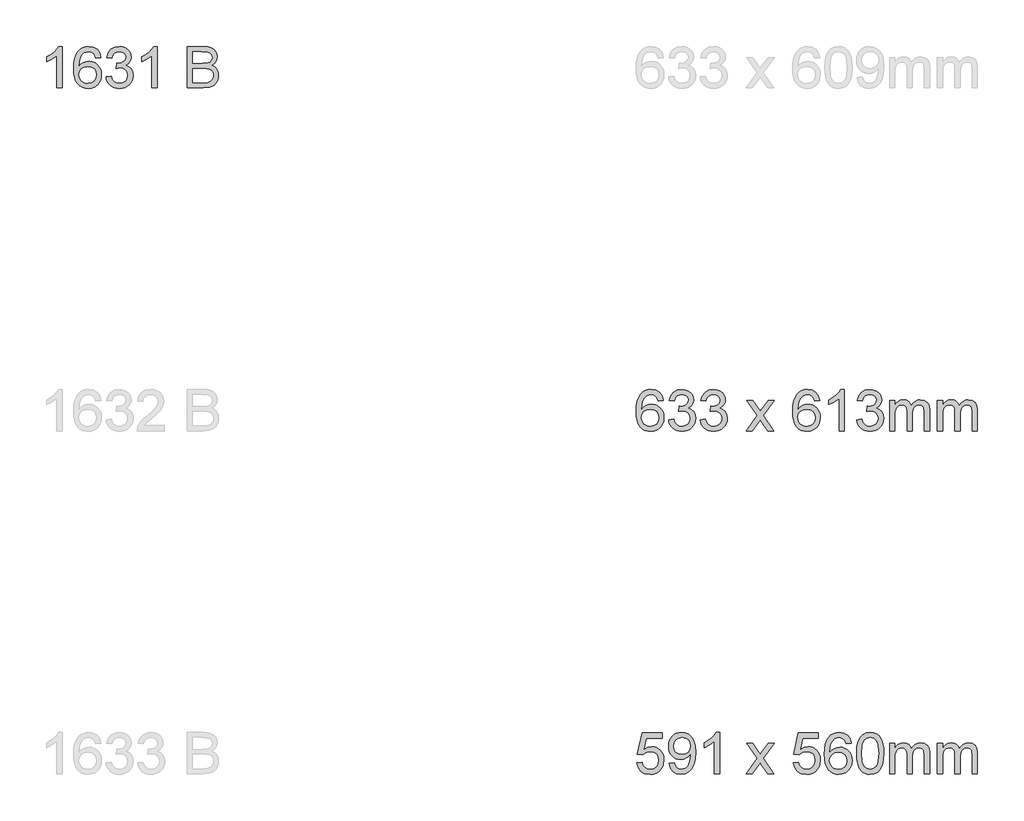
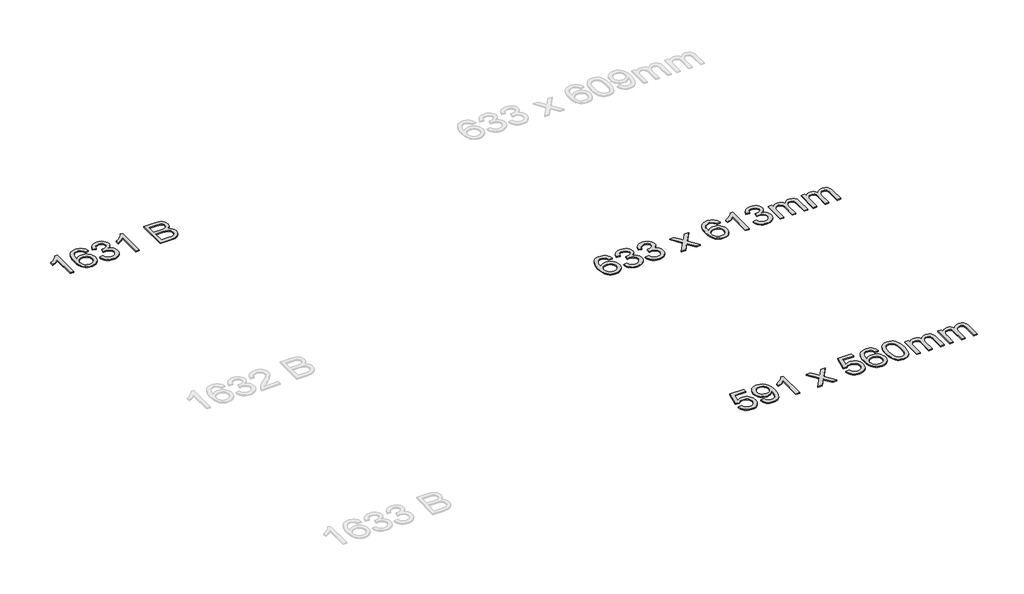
# One storey, part 28 of 39: 3 proxies.
"""IFC4 building model written with IfcOpenShell, lengths in millimetres."""

from ifc_helpers import new_model, si_unit, origin, origin_with_axes, place, context, project, spatial, polyline, outline, extrude, element, save

model = new_model("IFC4")

# Units and contexts
model_context = context("Model", 3, world=origin())
ifc_project = project(units=[si_unit("LENGTHUNIT", "METRE", prefix="MILLI")], contexts=[model_context])

# Site, building, storey
site = spatial("IfcSite", under=ifc_project)
building = spatial("IfcBuilding", under=site)
storey = spatial("IfcBuildingStorey", under=building, Name="Marelli - Linha PROFIT - Planta Baixa", Elevation=0.0)

# Proxies
placement = place(None, origin())
element("IfcBuildingElementProxy", 1, Name="300mm Arial", ObjectType="300mm Arial", at=placement, inside=storey, context=model_context, shape_type="SweptSolid", body=[
    extrude(outline(polyline([(-29517.1779543, -5780.5663201), (-29554.8490706, -5780.5663201), (-29554.8490706, -5545.7104543), (-29590.5336241, -5571.1311002), (-29630.1913032, -5590.1505994), (-29630.1913032, -5554.5396222), (-29600.6043938, -5538.4447849), (-29574.9722158, -5519.2965271), (-29554.7662972, -5498.9342587), (-29541.458166, -5479.1973896), (-29517.1779543, -5479.1973896), (-29517.1779543, -5780.5663201)])), origin_with_axes(), (0.0, 0.0, 1.0), 10.0),
    extrude(outline(polyline([(-29234.644582, -5559.2485118), (-29272.3156983, -5563.9574013), (-29278.3857512, -5545.2873901), (-29286.5895197, -5532.5402789), (-29303.6776384, -5520.7864492), (-29324.3342124, -5516.8685059), (-29341.8453954, -5519.1493743), (-29358.3265088, -5525.9919794), (-29372.4807686, -5540.4037566), (-29384.0414603, -5560.2417932), (-29391.8497556, -5588.3019923), (-29394.7468263, -5627.3802573), (-29379.6360734, -5609.7495127), (-29361.5270821, -5597.3242983), (-29341.4315282, -5589.9574613), (-29320.3610869, -5587.501849), (-29302.2612927, -5589.1803106), (-29285.5594501, -5594.2156954), (-29270.2555591, -5602.6080034), (-29256.3496197, -5614.3572346), (-29244.7935266, -5628.7644133), (-29236.5391743, -5645.1305635), (-29231.5865629, -5663.4556854), (-29229.9356925, -5683.7397789), (-29233.0442953, -5710.7147262), (-29242.3701039, -5735.7215049), (-29257.140566, -5756.9299019), (-29276.5831295, -5772.5097044), (-29299.8148775, -5782.0838333), (-29325.9528932, -5785.2752096), (-29348.4097898, -5783.1598881), (-29368.691584, -5776.8139237), (-29386.798276, -5766.2373164), (-29402.7298656, -5751.4300661), (-29415.7183993, -5731.7667734), (-29424.9959234, -5706.622039), (-29430.5624378, -5675.9958629), (-29432.4179426, -5639.8882451), (-29430.3578034, -5599.4074301), (-29424.1773859, -5564.8587122), (-29413.8766901, -5536.2420915), (-29399.4557159, -5513.557568), (-29383.8253296, -5498.5249899), (-29365.7025428, -5487.7874342), (-29345.0873555, -5481.3449008), (-29321.9797677, -5479.1973896), (-29288.9255704, -5484.5132844), (-29262.4564608, -5500.4609689), (-29243.9152083, -5525.7896443), (-29234.644582, -5559.2485118)]), holes=[polyline([(-29394.7468263, -5683.1511677), (-29392.5671255, -5699.8438133), (-29386.028023, -5715.7823007), (-29375.87448, -5729.485905), (-29362.8514573, -5739.4739012), (-29347.1336991, -5745.5715453), (-29328.8959492, -5747.6040933), (-29304.0363234, -5743.3918445), (-29284.4925924, -5730.7550979), (-29271.8282547, -5710.8894702), (-29267.6068088, -5684.9905777), (-29271.7730724, -5660.1309519), (-29284.2718632, -5641.1758321), (-29304.146688, -5629.173682), (-29330.4410536, -5625.1729653), (-29355.2638912, -5629.173682), (-29376.0216328, -5641.1758321), (-29390.0655279, -5659.6710994), (-29394.7468263, -5683.1511677)])]), origin_with_axes(), (0.0, 0.0, 1.0), 10.0),
    extrude(outline(polyline([(-29196.9734657, -5700.5151979), (-29159.3023494, -5695.8063084), (-29150.8686547, -5719.4795148), (-29138.5170167, -5735.4639875), (-29121.6404301, -5744.5690668), (-29099.6318898, -5747.6040933), (-29073.8065737, -5743.4286327), (-29053.8673696, -5730.9022507), (-29041.1202585, -5712.2138454), (-29036.8712214, -5689.5523145), (-29041.0834703, -5668.0404148), (-29053.7202168, -5650.5936112), (-29072.8500805, -5639.0329195), (-29096.541681, -5635.1793556), (-29122.9556083, -5639.2996339), (-29118.7617535, -5601.6285176), (-29112.7284888, -5602.069976), (-29090.1589284, -5599.3660433), (-29069.980601, -5591.2542454), (-29055.7435678, -5577.5322469), (-29050.99789, -5557.997713), (-29054.4375867, -5541.7281317), (-29064.7566766, -5528.5303652), (-29080.502026, -5519.7839707), (-29100.220501, -5516.8685059), (-29119.9757641, -5519.8115619), (-29136.1257837, -5528.6407298), (-29147.9164016, -5543.3560096), (-29154.5934599, -5563.9574013), (-29192.2645762, -5559.2485118), (-29181.172934, -5525.4217623), (-29161.436065, -5500.1666633), (-29134.4335265, -5484.4397081), (-29101.5448762, -5479.1973896), (-29077.8624727, -5481.7817606), (-29056.1114498, -5489.5348737), (-29037.7725323, -5501.76695), (-29024.3264454, -5517.7882109), (-29016.0766916, -5536.24669), (-29013.3267737, -5555.790421), (-29015.9387359, -5574.0005798), (-29023.7746224, -5590.5184814), (-29036.7240686, -5604.5899677), (-29054.67671, -5615.4608806), (-29031.0954741, -5624.9890243), (-29013.6210793, -5641.2126203), (-29002.8053487, -5663.2487518), (-28999.2001051, -5690.2145021), (-29001.0027269, -5709.3259717), (-29006.4105922, -5726.9291252), (-29015.4237011, -5743.0239625), (-29028.0420535, -5757.6104836), (-29043.4149224, -5769.7138012), (-29060.6915806, -5778.3590281), (-29079.8720281, -5783.5461642), (-29100.956265, -5785.2752096), (-29120.0125523, -5783.7990831), (-29137.3765825, -5779.3707036), (-29153.0483555, -5771.9900711), (-29167.0278713, -5761.6571855), (-29178.7495114, -5748.9790523), (-29187.6476571, -5734.5626766), (-29193.7223086, -5718.4080585), (-29196.9734657, -5700.5151979)])), origin_with_axes(), (0.0, 0.0, 1.0), 10.0),
    extrude(outline(polyline([(-28824.9711922, -5780.5663201), (-28862.6423085, -5780.5663201), (-28862.6423085, -5545.7104543), (-28898.326862, -5571.1311002), (-28937.9845411, -5590.1505994), (-28937.9845411, -5554.5396222), (-28908.3976316, -5538.4447849), (-28882.7654536, -5519.2965271), (-28862.559535, -5498.9342587), (-28849.2514039, -5479.1973896), (-28824.9711922, -5479.1973896), (-28824.9711922, -5780.5663201)])), origin_with_axes(), (0.0, 0.0, 1.0), 10.0),
    extrude(outline(polyline([(-28603.6533839, -5780.5663201), (-28603.6533839, -5479.1973896), (-28488.6534722, -5479.1973896), (-28457.0248177, -5481.4138786), (-28432.3307387, -5488.0633457), (-28413.4032101, -5499.3113377), (-28399.0742064, -5515.3234015), (-28390.0519004, -5534.1589597), (-28387.0444651, -5553.8774346), (-28389.5736538, -5572.0232141), (-28397.16122, -5589.0837416), (-28409.8623459, -5604.0105535), (-28427.7322138, -5615.7551862), (-28406.385861, -5626.9020107), (-28390.6129205, -5643.8613707), (-28380.8732447, -5665.5112261), (-28377.626686, -5690.7295368), (-28379.8431751, -5711.7447958), (-28386.4926421, -5731.2333445), (-28396.416259, -5747.8064284), (-28408.4551972, -5760.0752929), (-28423.1980682, -5768.9596431), (-28441.233483, -5775.3791839), (-28489.536389, -5780.5663201), (-28603.6533839, -5780.5663201)]), holes=[polyline([(-28565.9822676, -5601.6285176), (-28497.1883345, -5601.6285176), (-28457.0156206, -5598.3911561), (-28442.9533313, -5592.8085468), (-28432.8457735, -5584.4484284), (-28426.7481295, -5573.4395597), (-28424.7155814, -5559.9106994), (-28426.6101737, -5546.7773121), (-28432.2939505, -5535.3361821), (-28441.5093945, -5526.4058467), (-28453.9989882, -5520.8048433), (-28502.4122588, -5516.8685059), (-28565.9822676, -5516.8685059), (-28565.9822676, -5601.6285176)]), polyline([(-28565.9822676, -5742.8952038), (-28488.7270486, -5742.8952038), (-28460.768017, -5741.4236758), (-28437.1132047, -5733.2199073), (-28421.4414317, -5716.4812765), (-28416.8337097, -5704.6538704), (-28415.2978024, -5691.0974188), (-28417.1004241, -5675.3520694), (-28422.5082895, -5661.814012), (-28431.9536597, -5651.2282076), (-28445.8687962, -5644.3396173), (-28465.578074, -5640.5596298), (-28492.4058685, -5639.2996339), (-28565.9822676, -5639.2996339), (-28565.9822676, -5742.8952038)])]), origin_with_axes(), (0.0, 0.0, 1.0), 10.0),
])
element("IfcBuildingElementProxy", 2, Name="300mm Arial", ObjectType="300mm Arial", at=placement, inside=storey, context=model_context, shape_type="SweptSolid", body=[
    extrude(outline(polyline([(-25329.4613997, -10700.5151979), (-25291.7902834, -10695.8063084), (-25284.8741018, -10718.421854), (-25272.8075724, -10734.6178589), (-25255.6458773, -10744.3575347), (-25233.4441989, -10747.6040933), (-25206.4416605, -10743.0883418), (-25186.2081507, -10729.5410873), (-25173.5714042, -10708.5258284), (-25169.3591554, -10681.6060634), (-25173.3046898, -10656.2589939), (-25185.141293, -10636.8716128), (-25204.9609354, -10624.56596), (-25232.8555877, -10620.4640758), (-25251.1301258, -10622.1011506), (-25265.9281791, -10627.0123753), (-25287.0813938, -10644.0085235), (-25324.7525101, -10639.2996339), (-25291.7902834, -10483.9062792), (-25145.8147077, -10483.9062792), (-25145.8147077, -10521.5773955), (-25261.3296542, -10521.5773955), (-25277.4428855, -10604.5715736), (-25250.5323176, -10588.237613), (-25222.3341627, -10582.7929595), (-25203.9883474, -10584.4806181), (-25187.1370528, -10589.5435941), (-25171.7802787, -10597.9818873), (-25157.9180253, -10609.7954979), (-25146.4424063, -10624.2624574), (-25138.2455356, -10640.6607973), (-25133.3274132, -10658.9905177), (-25131.6880391, -10679.2516186), (-25137.5925451, -10716.9227349), (-25144.9731776, -10733.716548), (-25155.3060631, -10749.1491977), (-25170.959442, -10764.9543279), (-25189.2247831, -10776.2437066), (-25210.1020863, -10783.0173339), (-25233.5913517, -10785.2752096), (-25270.5910834, -10779.4718711), (-25286.2697542, -10772.217698), (-25300.0676282, -10762.0618557), (-25311.5478458, -10749.5101819), (-25320.2735468, -10735.0685143), (-25329.4613997, -10700.5151979)])), origin_with_axes(), (0.0, 0.0, 1.0), 10.0),
    extrude(outline(polyline([(-25094.0169227, -10705.2240875), (-25056.3458064, -10700.5151979), (-25049.9078715, -10721.8983389), (-25039.4232347, -10736.4572688), (-25025.1494132, -10744.8173872), (-25007.3439247, -10747.6040933), (-24991.368649, -10745.8106686), (-24976.8465073, -10740.4303944), (-24964.7799778, -10732.051882), (-24956.1715392, -10721.2637424), (-24943.8474923, -10688.5222449), (-24938.4028388, -10644.8178638), (-24938.623568, -10637.4602239), (-24951.6741818, -10653.3895143), (-24968.7531034, -10666.0078668), (-24988.6279282, -10674.2300294), (-25010.0662514, -10676.9707502), (-25027.9614112, -10675.2968871), (-25044.4172327, -10670.2752979), (-25059.4337159, -10661.9059825), (-25073.0108608, -10650.188941), (-25084.2611521, -10635.7357771), (-25092.2970744, -10619.1580947), (-25097.1186278, -10600.4558938), (-25098.7258123, -10579.6291743), (-25097.0404529, -10558.1080776), (-25091.9843747, -10538.7942728), (-25083.5575778, -10521.6877601), (-25071.760062, -10506.7885393), (-25057.4241605, -10494.7174113), (-25041.3822063, -10486.095177), (-25023.6341993, -10480.9218365), (-25004.1801395, -10479.1973896), (-24976.0831521, -10483.133727), (-24950.5061564, -10494.942739), (-24929.1138184, -10514.0358146), (-24913.5708041, -10539.8243424), (-24904.1070398, -10575.4721078), (-24900.9524517, -10624.1428957), (-24904.0978427, -10675.7475426), (-24913.5340159, -10715.6351479), (-24929.1781978, -10745.6083335), (-24950.9476148, -10767.469721), (-24977.904168, -10780.8238375), (-25009.1097583, -10785.2752096), (-25041.3178269, -10780.0236941), (-25067.0143843, -10764.2691477), (-25084.9854198, -10739.0048517), (-25094.0169227, -10705.2240875)]), holes=[polyline([(-24938.623568, -10578.7462575), (-24942.688664, -10553.215247), (-24954.8839522, -10533.5703485), (-24973.8114808, -10521.0439666), (-24998.0732984, -10516.8685059), (-25023.2364269, -10521.3658633), (-25043.3963602, -10534.8579355), (-25056.640112, -10555.5053125), (-25061.054696, -10581.4685843), (-25056.8792353, -10604.7463175), (-25044.3528534, -10623.2231907), (-25024.6895608, -10635.2805231), (-24999.103368, -10639.2996339), (-24975.0346885, -10635.2805231), (-24955.6565044, -10623.2231907), (-24942.8818021, -10604.0657358), (-24938.623568, -10578.7462575)])]), origin_with_axes(), (0.0, 0.0, 1.0), 10.0),
    extrude(outline(polyline([(-24726.7235388, -10780.5663201), (-24764.3946551, -10780.5663201), (-24764.3946551, -10545.7104543), (-24800.0792086, -10571.1311002), (-24839.7368877, -10590.1505994), (-24839.7368877, -10554.5396222), (-24810.1499782, -10538.4447849), (-24784.5178002, -10519.2965271), (-24764.3118816, -10498.9342587), (-24751.0037504, -10479.1973896), (-24726.7235388, -10479.1973896), (-24726.7235388, -10780.5663201)])), origin_with_axes(), (0.0, 0.0, 1.0), 10.0),
    extrude(outline(polyline([(-24533.6590677, -10780.5663201), (-24453.1664871, -10669.3188047), (-24528.9501782, -10559.2485118), (-24483.6271163, -10559.2485118), (-24447.059646, -10612.2235191), (-24429.9899215, -10637.2394947), (-24415.2010652, -10616.7852558), (-24373.5568234, -10559.2485118), (-24328.2337616, -10559.2485118), (-24407.8434253, -10669.3188047), (-24331.1768175, -10780.5663201), (-24376.4998794, -10780.5663201), (-24422.6322815, -10713.6853733), (-24431.0935674, -10701.4716911), (-24488.3360059, -10780.5663201), (-24533.6590677, -10780.5663201)])), origin_with_axes(), (0.0, 0.0, 1.0), 10.0),
    extrude(outline(polyline([(-24189.9101314, -10700.5151979), (-24152.2390151, -10695.8063084), (-24145.3228336, -10718.421854), (-24133.2563041, -10734.6178589), (-24116.0946091, -10744.3575347), (-24093.8929307, -10747.6040933), (-24066.8903922, -10743.0883418), (-24046.6568825, -10729.5410873), (-24034.0201359, -10708.5258284), (-24029.8078871, -10681.6060634), (-24033.7534215, -10656.2589939), (-24045.5900247, -10636.8716128), (-24065.4096672, -10624.56596), (-24093.3043195, -10620.4640758), (-24111.5788576, -10622.1011506), (-24126.3769108, -10627.0123753), (-24147.5301256, -10644.0085235), (-24185.2012419, -10639.2996339), (-24152.2390151, -10483.9062792), (-24006.2634394, -10483.9062792), (-24006.2634394, -10521.5773955), (-24121.7783859, -10521.5773955), (-24137.8916173, -10604.5715736), (-24110.9810493, -10588.237613), (-24082.7828944, -10582.7929595), (-24064.4370792, -10584.4806181), (-24047.5857845, -10589.5435941), (-24032.2290105, -10597.9818873), (-24018.366757, -10609.7954979), (-24006.8911381, -10624.2624574), (-23998.6942674, -10640.6607973), (-23993.7761449, -10658.9905177), (-23992.1367708, -10679.2516186), (-23998.0412768, -10716.9227349), (-24005.4219093, -10733.716548), (-24015.7547949, -10749.1491977), (-24031.4081738, -10764.9543279), (-24049.6735148, -10776.2437066), (-24070.5508181, -10783.0173339), (-24094.0400835, -10785.2752096), (-24131.0398151, -10779.4718711), (-24146.7184859, -10772.217698), (-24160.51636, -10762.0618557), (-24171.9965775, -10749.5101819), (-24180.7222786, -10735.0685143), (-24189.9101314, -10700.5151979)])), origin_with_axes(), (0.0, 0.0, 1.0), 10.0),
    extrude(outline(polyline([(-23766.110073, -10559.2485118), (-23803.7811893, -10563.9574013), (-23809.8512422, -10545.2873901), (-23818.0550107, -10532.5402789), (-23835.1431294, -10520.7864492), (-23855.7997034, -10516.8685059), (-23873.3108864, -10519.1493743), (-23889.7919997, -10525.9919794), (-23903.9462595, -10540.4037566), (-23915.5069512, -10560.2417932), (-23923.3152465, -10588.3019923), (-23926.2123173, -10627.3802573), (-23911.1015643, -10609.7495127), (-23892.9925731, -10597.3242983), (-23872.8970191, -10589.9574613), (-23851.8265778, -10587.501849), (-23833.7267837, -10589.1803106), (-23817.0249411, -10594.2156954), (-23801.7210501, -10602.6080034), (-23787.8151107, -10614.3572346), (-23776.2590175, -10628.7644133), (-23768.0046652, -10645.1305635), (-23763.0520539, -10663.4556854), (-23761.4011834, -10683.7397789), (-23764.5097863, -10710.7147262), (-23773.8355949, -10735.7215049), (-23788.606057, -10756.9299019), (-23808.0486204, -10772.5097044), (-23831.2803684, -10782.0838333), (-23857.4183842, -10785.2752096), (-23879.8752807, -10783.1598881), (-23900.1570749, -10776.8139237), (-23918.2637669, -10766.2373164), (-23934.1953566, -10751.4300661), (-23947.1838902, -10731.7667734), (-23956.4614143, -10706.622039), (-23962.0279287, -10675.9958629), (-23963.8834336, -10639.8882451), (-23961.8232944, -10599.4074301), (-23955.6428769, -10564.8587122), (-23945.342181, -10536.2420915), (-23930.9212068, -10513.557568), (-23915.2908205, -10498.5249899), (-23897.1680337, -10487.7874342), (-23876.5528464, -10481.3449008), (-23853.4452586, -10479.1973896), (-23820.3910613, -10484.5132844), (-23793.9219518, -10500.4609689), (-23775.3806992, -10525.7896443), (-23766.110073, -10559.2485118)]), holes=[polyline([(-23926.2123173, -10683.1511677), (-23924.0326164, -10699.8438133), (-23917.493514, -10715.7823007), (-23907.3399709, -10729.485905), (-23894.3169483, -10739.4739012), (-23878.59919, -10745.5715453), (-23860.3614401, -10747.6040933), (-23835.5018143, -10743.3918445), (-23815.9580833, -10730.7550979), (-23803.2937456, -10710.8894702), (-23799.0722997, -10684.9905777), (-23803.2385633, -10660.1309519), (-23815.7373541, -10641.1758321), (-23835.6121789, -10629.173682), (-23861.9065445, -10625.1729653), (-23886.7293821, -10629.173682), (-23907.4871237, -10641.1758321), (-23921.5310189, -10659.6710994), (-23926.2123173, -10683.1511677)])]), origin_with_axes(), (0.0, 0.0, 1.0), 10.0),
    extrude(outline(polyline([(-23728.4389566, -10632.309876), (-23725.6706446, -10584.0713494), (-23717.3657086, -10545.6000897), (-23703.606922, -10516.3074859), (-23684.4770582, -10495.6049266), (-23659.8381616, -10483.2992739), (-23629.5522763, -10479.1973896), (-23606.3389225, -10481.6254108), (-23585.5535897, -10488.9094743), (-23568.1711655, -10500.7644716), (-23555.1665369, -10516.9052941), (-23545.3440877, -10537.1939862), (-23537.5082012, -10561.4925919), (-23532.3762473, -10592.3486943), (-23530.665596, -10632.309876), (-23533.4063169, -10680.2724911), (-23541.6284795, -10718.6517803), (-23555.3044927, -10747.9719753), (-23574.4067653, -10768.757308), (-23599.1008442, -10781.1457342), (-23629.5522763, -10785.2752096), (-23650.3008209, -10783.4817849), (-23668.6949206, -10778.1015107), (-23684.7345756, -10769.1343871), (-23698.4197858, -10756.580414), (-23711.5531731, -10733.8866934), (-23720.9341639, -10705.6103636), (-23726.5627585, -10671.7514244), (-23728.4389566, -10632.309876)]), holes=[polyline([(-23690.7678403, -10632.2362996), (-23686.3532564, -10691.492892), (-23680.8350265, -10711.7608907), (-23673.1095046, -10725.788691), (-23653.3910296, -10742.1502427), (-23629.5522763, -10747.6040933), (-23605.7135231, -10742.1318486), (-23585.9950481, -10725.7151146), (-23578.2695262, -10711.6643216), (-23572.7512963, -10691.4009215), (-23568.3367123, -10632.2362996), (-23572.6041435, -10574.3132795), (-23577.9384324, -10554.1119594), (-23585.4064369, -10539.750766), (-23605.0881237, -10522.589071), (-23629.9937347, -10516.8685059), (-23653.5749706, -10521.9084893), (-23672.5208934, -10537.0284393), (-23680.5039327, -10552.6634241), (-23686.2061036, -10573.7430624), (-23690.7678403, -10632.2362996)])]), origin_with_axes(), (0.0, 0.0, 1.0), 10.0),
    extrude(outline(polyline([(-23488.2855902, -10780.5663201), (-23488.2855902, -10559.2485118), (-23450.6144739, -10559.2485118), (-23450.6144739, -10595.6688293), (-23439.2837084, -10578.9393956), (-23424.7155814, -10565.8335995), (-23407.4067336, -10557.3631165), (-23387.8538055, -10554.5396222), (-23366.9029259, -10557.4182988), (-23350.1091128, -10566.0543287), (-23337.5643368, -10579.8774946), (-23329.3605683, -10598.3175797), (-23315.6293728, -10579.1647233), (-23299.9667969, -10565.4841116), (-23282.3728404, -10557.2757446), (-23262.8475036, -10554.5396222), (-23234.529787, -10559.0921619), (-23213.5881044, -10572.749781), (-23200.6478552, -10595.8803614), (-23196.3344388, -10628.8517853), (-23196.3344388, -10780.5663201), (-23234.0055551, -10780.5663201), (-23234.0055551, -10645.038593), (-23237.5004341, -10613.5846825), (-23242.4116587, -10604.9118644), (-23250.1555747, -10598.0968505), (-23260.1159797, -10593.6822665), (-23271.6766714, -10592.2107385), (-23292.0849251, -10595.981529), (-23308.7223884, -10607.2939003), (-23319.7864394, -10626.9204048), (-23323.4744564, -10655.6335945), (-23323.4744564, -10780.5663201), (-23361.1455727, -10780.5663201), (-23361.1455727, -10640.8447383), (-23363.3252735, -10619.5443708), (-23369.864376, -10604.3508444), (-23381.3698853, -10595.245765), (-23398.448807, -10592.2107385), (-23412.9617517, -10594.2340895), (-23426.3342622, -10600.3041424), (-23437.3707221, -10610.2737445), (-23444.8755148, -10623.9957429), (-23449.1797341, -10643.0336362), (-23450.6144739, -10668.9509227), (-23450.6144739, -10780.5663201), (-23488.2855902, -10780.5663201)])), origin_with_axes(), (0.0, 0.0, 1.0), 10.0),
    extrude(outline(polyline([(-23139.8277644, -10780.5663201), (-23139.8277644, -10559.2485118), (-23102.1566481, -10559.2485118), (-23102.1566481, -10595.6688293), (-23090.8258826, -10578.9393956), (-23076.2577556, -10565.8335995), (-23058.9489077, -10557.3631165), (-23039.3959797, -10554.5396222), (-23018.4451001, -10557.4182988), (-23001.651287, -10566.0543287), (-22989.1065109, -10579.8774946), (-22980.9027425, -10598.3175797), (-22967.171547, -10579.1647233), (-22951.508971, -10565.4841116), (-22933.9150146, -10557.2757446), (-22914.3896777, -10554.5396222), (-22886.0719611, -10559.0921619), (-22865.1302786, -10572.749781), (-22852.1900294, -10595.8803614), (-22847.876613, -10628.8517853), (-22847.876613, -10780.5663201), (-22885.5477293, -10780.5663201), (-22885.5477293, -10645.038593), (-22889.0426083, -10613.5846825), (-22893.9538329, -10604.9118644), (-22901.6977489, -10598.0968505), (-22911.6581539, -10593.6822665), (-22923.2188456, -10592.2107385), (-22943.6270993, -10595.981529), (-22960.2645625, -10607.2939003), (-22971.3286135, -10626.9204048), (-22975.0166305, -10655.6335945), (-22975.0166305, -10780.5663201), (-23012.6877468, -10780.5663201), (-23012.6877468, -10640.8447383), (-23014.8674477, -10619.5443708), (-23021.4065501, -10604.3508444), (-23032.9120595, -10595.245765), (-23049.9909811, -10592.2107385), (-23064.5039259, -10594.2340895), (-23077.8764364, -10600.3041424), (-23088.9128962, -10610.2737445), (-23096.4176889, -10623.9957429), (-23100.7219083, -10643.0336362), (-23102.1566481, -10668.9509227), (-23102.1566481, -10780.5663201), (-23139.8277644, -10780.5663201)])), origin_with_axes(), (0.0, 0.0, 1.0), 10.0),
])
element("IfcBuildingElementProxy", 3, Name="300mm Arial", ObjectType="300mm Arial", at=placement, inside=storey, context=model_context, shape_type="SweptSolid", body=[
    extrude(outline(polyline([(-25136.3969286, -8059.2485118), (-25174.0680449, -8063.9574013), (-25180.1380978, -8045.2873901), (-25188.3418663, -8032.5402789), (-25205.429985, -8020.7864492), (-25226.086559, -8016.8685059), (-25243.597742, -8019.1493743), (-25260.0788554, -8025.9919794), (-25274.2331151, -8040.4037566), (-25285.7938068, -8060.2417932), (-25293.6021022, -8088.3019923), (-25296.4991729, -8127.3802573), (-25281.3884199, -8109.7495127), (-25263.2794287, -8097.3242983), (-25243.1838747, -8089.9574613), (-25222.1134335, -8087.501849), (-25204.0136393, -8089.1803106), (-25187.3117967, -8094.2156954), (-25172.0079057, -8102.6080034), (-25158.1019663, -8114.3572346), (-25146.5458731, -8128.7644133), (-25138.2915209, -8145.1305635), (-25133.3389095, -8163.4556854), (-25131.6880391, -8183.7397789), (-25134.7966419, -8210.7147262), (-25144.1224505, -8235.7215049), (-25158.8929126, -8256.9299019), (-25178.335476, -8272.5097044), (-25201.567224, -8282.0838333), (-25227.7052398, -8285.2752096), (-25250.1621363, -8283.1598881), (-25270.4439306, -8276.8139237), (-25288.5506225, -8266.2373164), (-25304.4822122, -8251.4300661), (-25317.4707459, -8231.7667734), (-25326.7482699, -8206.622039), (-25332.3147844, -8175.9958629), (-25334.1702892, -8139.8882451), (-25332.11015, -8099.4074301), (-25325.9297325, -8064.8587122), (-25315.6290366, -8036.2420915), (-25301.2080624, -8013.557568), (-25285.5776762, -7998.5249899), (-25267.4548894, -7987.7874342), (-25246.8397021, -7981.3449008), (-25223.7321142, -7979.1973896), (-25190.677917, -7984.5132844), (-25164.2088074, -8000.4609689), (-25145.6675549, -8025.7896443), (-25136.3969286, -8059.2485118)]), holes=[polyline([(-25296.4991729, -8183.1511677), (-25294.3194721, -8199.8438133), (-25287.7803696, -8215.7823007), (-25277.6268265, -8229.485905), (-25264.6038039, -8239.4739012), (-25248.8860457, -8245.5715453), (-25230.6482958, -8247.6040933), (-25205.7886699, -8243.3918445), (-25186.2449389, -8230.7550979), (-25173.5806013, -8210.8894702), (-25169.3591554, -8184.9905777), (-25173.525419, -8160.1309519), (-25186.0242097, -8141.1758321), (-25205.8990345, -8129.173682), (-25232.1934001, -8125.1729653), (-25257.0162378, -8129.173682), (-25277.7739793, -8141.1758321), (-25291.8178745, -8159.6710994), (-25296.4991729, -8183.1511677)])]), origin_with_axes(), (0.0, 0.0, 1.0), 10.0),
    extrude(outline(polyline([(-25098.7258123, -8200.5151979), (-25061.054696, -8195.8063084), (-25052.6210012, -8219.4795148), (-25040.2693633, -8235.4639875), (-25023.3927767, -8244.5690668), (-25001.3842364, -8247.6040933), (-24975.5589203, -8243.4286327), (-24955.6197162, -8230.9022507), (-24942.872605, -8212.2138454), (-24938.623568, -8189.5523145), (-24942.8358168, -8168.0404148), (-24955.4725634, -8150.5936112), (-24974.6024271, -8139.0329195), (-24998.2940276, -8135.1793556), (-25024.7079549, -8139.2996339), (-25020.5141001, -8101.6285176), (-25014.4808354, -8102.069976), (-24991.911275, -8099.3660433), (-24971.7329475, -8091.2542454), (-24957.4959143, -8077.5322469), (-24952.7502366, -8057.997713), (-24956.1899333, -8041.7281317), (-24966.5090232, -8028.5303652), (-24982.2543726, -8019.7839707), (-25001.9728476, -8016.8685059), (-25021.7281107, -8019.8115619), (-25037.8781303, -8028.6407298), (-25049.6687482, -8043.3560096), (-25056.3458064, -8063.9574013), (-25094.0169227, -8059.2485118), (-25082.9252806, -8025.4217623), (-25063.1884115, -8000.1666633), (-25036.1858731, -7984.4397081), (-25003.2972227, -7979.1973896), (-24979.6148193, -7981.7817606), (-24957.8637963, -7989.5348737), (-24939.5248789, -8001.76695), (-24926.0787919, -8017.7882109), (-24917.8290382, -8036.24669), (-24915.0791203, -8055.790421), (-24917.6910825, -8074.0005798), (-24925.526969, -8090.5184814), (-24938.4764152, -8104.5899677), (-24956.4290565, -8115.4608806), (-24932.8478207, -8124.9890243), (-24915.3734259, -8141.2126203), (-24904.5576952, -8163.2487518), (-24900.9524517, -8190.2145021), (-24902.7550735, -8209.3259717), (-24908.1629388, -8226.9291252), (-24917.1760477, -8243.0239625), (-24929.7944001, -8257.6104836), (-24945.167269, -8269.7138012), (-24962.4439272, -8278.3590281), (-24981.6243747, -8283.5461642), (-25002.7086115, -8285.2752096), (-25021.7648989, -8283.7990831), (-25039.1289291, -8279.3707036), (-25054.8007021, -8271.9900711), (-25068.7802179, -8261.6571855), (-25080.5018579, -8248.9790523), (-25089.4000037, -8234.5626766), (-25095.4746552, -8218.4080585), (-25098.7258123, -8200.5151979)])), origin_with_axes(), (0.0, 0.0, 1.0), 10.0),
    extrude(outline(polyline([(-24867.9902249, -8200.5151979), (-24830.3191086, -8195.8063084), (-24821.8854139, -8219.4795148), (-24809.5337759, -8235.4639875), (-24792.6571893, -8244.5690668), (-24770.648649, -8247.6040933), (-24744.8233329, -8243.4286327), (-24724.8841288, -8230.9022507), (-24712.1370177, -8212.2138454), (-24707.8879806, -8189.5523145), (-24712.1002295, -8168.0404148), (-24724.736976, -8150.5936112), (-24743.8668397, -8139.0329195), (-24767.5584402, -8135.1793556), (-24793.9723675, -8139.2996339), (-24789.7785127, -8101.6285176), (-24783.745248, -8102.069976), (-24761.1756876, -8099.3660433), (-24740.9973602, -8091.2542454), (-24726.760327, -8077.5322469), (-24722.0146492, -8057.997713), (-24725.4543459, -8041.7281317), (-24735.7734358, -8028.5303652), (-24751.5187852, -8019.7839707), (-24771.2372602, -8016.8685059), (-24790.9925233, -8019.8115619), (-24807.1425429, -8028.6407298), (-24818.9331609, -8043.3560096), (-24825.6102191, -8063.9574013), (-24863.2813354, -8059.2485118), (-24852.1896932, -8025.4217623), (-24832.4528242, -8000.1666633), (-24805.4502857, -7984.4397081), (-24772.5616354, -7979.1973896), (-24748.8792319, -7981.7817606), (-24727.128209, -7989.5348737), (-24708.7892915, -8001.76695), (-24695.3432046, -8017.7882109), (-24687.0934508, -8036.24669), (-24684.3435329, -8055.790421), (-24686.9554951, -8074.0005798), (-24694.7913816, -8090.5184814), (-24707.7408278, -8104.5899677), (-24725.6934692, -8115.4608806), (-24702.1122333, -8124.9890243), (-24684.6378385, -8141.2126203), (-24673.8221079, -8163.2487518), (-24670.2168643, -8190.2145021), (-24672.0194861, -8209.3259717), (-24677.4273514, -8226.9291252), (-24686.4404603, -8243.0239625), (-24699.0588127, -8257.6104836), (-24714.4316816, -8269.7138012), (-24731.7083398, -8278.3590281), (-24750.8887873, -8283.5461642), (-24771.9730242, -8285.2752096), (-24791.0293115, -8283.7990831), (-24808.3933417, -8279.3707036), (-24824.0651147, -8271.9900711), (-24838.0446305, -8261.6571855), (-24849.7662706, -8248.9790523), (-24858.6644163, -8234.5626766), (-24864.7390678, -8218.4080585), (-24867.9902249, -8200.5151979)])), origin_with_axes(), (0.0, 0.0, 1.0), 10.0),
    extrude(outline(polyline([(-24533.6590677, -8280.5663201), (-24453.1664871, -8169.3188047), (-24528.9501782, -8059.2485118), (-24483.6271163, -8059.2485118), (-24447.059646, -8112.2235191), (-24429.9899215, -8137.2394947), (-24415.2010652, -8116.7852558), (-24373.5568234, -8059.2485118), (-24328.2337616, -8059.2485118), (-24407.8434253, -8169.3188047), (-24331.1768175, -8280.5663201), (-24376.4998794, -8280.5663201), (-24422.6322815, -8213.6853733), (-24431.0935674, -8201.4716911), (-24488.3360059, -8280.5663201), (-24533.6590677, -8280.5663201)])), origin_with_axes(), (0.0, 0.0, 1.0), 10.0),
    extrude(outline(polyline([(-23996.8456603, -8059.2485118), (-24034.5167766, -8063.9574013), (-24040.5868296, -8045.2873901), (-24048.790598, -8032.5402789), (-24065.8787167, -8020.7864492), (-24086.5352908, -8016.8685059), (-24104.0464737, -8019.1493743), (-24120.5275871, -8025.9919794), (-24134.6818469, -8040.4037566), (-24146.2425386, -8060.2417932), (-24154.0508339, -8088.3019923), (-24156.9479046, -8127.3802573), (-24141.8371517, -8109.7495127), (-24123.7281605, -8097.3242983), (-24103.6326065, -8089.9574613), (-24082.5621652, -8087.501849), (-24064.462371, -8089.1803106), (-24047.7605285, -8094.2156954), (-24032.4566375, -8102.6080034), (-24018.550698, -8114.3572346), (-24006.9946049, -8128.7644133), (-23998.7402526, -8145.1305635), (-23993.7876412, -8163.4556854), (-23992.1367708, -8183.7397789), (-23995.2453737, -8210.7147262), (-24004.5711822, -8235.7215049), (-24019.3416443, -8256.9299019), (-24038.7842078, -8272.5097044), (-24062.0159558, -8282.0838333), (-24088.1539715, -8285.2752096), (-24110.6108681, -8283.1598881), (-24130.8926623, -8276.8139237), (-24148.9993543, -8266.2373164), (-24164.9309439, -8251.4300661), (-24177.9194776, -8231.7667734), (-24187.1970017, -8206.622039), (-24192.7635161, -8175.9958629), (-24194.6190209, -8139.8882451), (-24192.5588818, -8099.4074301), (-24186.3784642, -8064.8587122), (-24176.0777684, -8036.2420915), (-24161.6567942, -8013.557568), (-24146.0264079, -7998.5249899), (-24127.9036211, -7987.7874342), (-24107.2884338, -7981.3449008), (-24084.180846, -7979.1973896), (-24051.1266487, -7984.5132844), (-24024.6575392, -8000.4609689), (-24006.1162866, -8025.7896443), (-23996.8456603, -8059.2485118)]), holes=[polyline([(-24156.9479046, -8183.1511677), (-24154.7682038, -8199.8438133), (-24148.2291013, -8215.7823007), (-24138.0755583, -8229.485905), (-24125.0525356, -8239.4739012), (-24109.3347774, -8245.5715453), (-24091.0970275, -8247.6040933), (-24066.2374017, -8243.3918445), (-24046.6936707, -8230.7550979), (-24034.029333, -8210.8894702), (-24029.8078871, -8184.9905777), (-24033.9741507, -8160.1309519), (-24046.4729415, -8141.1758321), (-24066.3477663, -8129.173682), (-24092.6421319, -8125.1729653), (-24117.4649695, -8129.173682), (-24138.2227111, -8141.1758321), (-24152.2666062, -8159.6710994), (-24156.9479046, -8183.1511677)])]), origin_with_axes(), (0.0, 0.0, 1.0), 10.0),
    extrude(outline(polyline([(-23817.9078579, -8280.5663201), (-23855.5789742, -8280.5663201), (-23855.5789742, -8045.7104543), (-23891.2635277, -8071.1311002), (-23930.9212068, -8090.1505994), (-23930.9212068, -8054.5396222), (-23901.3342973, -8038.4447849), (-23875.7021193, -8019.2965271), (-23855.4962007, -7998.9342587), (-23842.1880696, -7979.1973896), (-23817.9078579, -7979.1973896), (-23817.9078579, -8280.5663201)])), origin_with_axes(), (0.0, 0.0, 1.0), 10.0),
    extrude(outline(polyline([(-23728.4389566, -8200.5151979), (-23690.7678403, -8195.8063084), (-23682.3341456, -8219.4795148), (-23669.9825076, -8235.4639875), (-23653.1059211, -8244.5690668), (-23631.0973807, -8247.6040933), (-23605.2720647, -8243.4286327), (-23585.3328605, -8230.9022507), (-23572.5857494, -8212.2138454), (-23568.3367123, -8189.5523145), (-23572.5489612, -8168.0404148), (-23585.1857077, -8150.5936112), (-23604.3155715, -8139.0329195), (-23628.007172, -8135.1793556), (-23654.4210992, -8139.2996339), (-23650.2272445, -8101.6285176), (-23644.1939798, -8102.069976), (-23621.6244193, -8099.3660433), (-23601.4460919, -8091.2542454), (-23587.2090587, -8077.5322469), (-23582.463381, -8057.997713), (-23585.9030776, -8041.7281317), (-23596.2221676, -8028.5303652), (-23611.967517, -8019.7839707), (-23631.6859919, -8016.8685059), (-23651.4412551, -8019.8115619), (-23667.5912746, -8028.6407298), (-23679.3818926, -8043.3560096), (-23686.0589508, -8063.9574013), (-23723.7300671, -8059.2485118), (-23712.638425, -8025.4217623), (-23692.9015559, -8000.1666633), (-23665.8990175, -7984.4397081), (-23633.0103671, -7979.1973896), (-23609.3279637, -7981.7817606), (-23587.5769407, -7989.5348737), (-23569.2380232, -8001.76695), (-23555.7919363, -8017.7882109), (-23547.5421826, -8036.24669), (-23544.7922647, -8055.790421), (-23547.4042268, -8074.0005798), (-23555.2401133, -8090.5184814), (-23568.1895596, -8104.5899677), (-23586.1422009, -8115.4608806), (-23562.560965, -8124.9890243), (-23545.0865703, -8141.2126203), (-23534.2708396, -8163.2487518), (-23530.665596, -8190.2145021), (-23532.4682178, -8209.3259717), (-23537.8760831, -8226.9291252), (-23546.889192, -8243.0239625), (-23559.5075445, -8257.6104836), (-23574.8804133, -8269.7138012), (-23592.1570715, -8278.3590281), (-23611.3375191, -8283.5461642), (-23632.4217559, -8285.2752096), (-23651.4780433, -8283.7990831), (-23668.8420734, -8279.3707036), (-23684.5138464, -8271.9900711), (-23698.4933622, -8261.6571855), (-23710.2150023, -8248.9790523), (-23719.1131481, -8234.5626766), (-23725.1877995, -8218.4080585), (-23728.4389566, -8200.5151979)])), origin_with_axes(), (0.0, 0.0, 1.0), 10.0),
    extrude(outline(polyline([(-23488.2855902, -8280.5663201), (-23488.2855902, -8059.2485118), (-23450.6144739, -8059.2485118), (-23450.6144739, -8095.6688293), (-23439.2837084, -8078.9393956), (-23424.7155814, -8065.8335995), (-23407.4067336, -8057.3631165), (-23387.8538055, -8054.5396222), (-23366.9029259, -8057.4182988), (-23350.1091128, -8066.0543287), (-23337.5643368, -8079.8774946), (-23329.3605683, -8098.3175797), (-23315.6293728, -8079.1647233), (-23299.9667969, -8065.4841116), (-23282.3728404, -8057.2757446), (-23262.8475036, -8054.5396222), (-23234.529787, -8059.0921619), (-23213.5881044, -8072.749781), (-23200.6478552, -8095.8803614), (-23196.3344388, -8128.8517853), (-23196.3344388, -8280.5663201), (-23234.0055551, -8280.5663201), (-23234.0055551, -8145.038593), (-23237.5004341, -8113.5846825), (-23242.4116587, -8104.9118644), (-23250.1555747, -8098.0968505), (-23260.1159797, -8093.6822665), (-23271.6766714, -8092.2107385), (-23292.0849251, -8095.981529), (-23308.7223884, -8107.2939003), (-23319.7864394, -8126.9204048), (-23323.4744564, -8155.6335945), (-23323.4744564, -8280.5663201), (-23361.1455727, -8280.5663201), (-23361.1455727, -8140.8447383), (-23363.3252735, -8119.5443708), (-23369.864376, -8104.3508444), (-23381.3698853, -8095.245765), (-23398.448807, -8092.2107385), (-23412.9617517, -8094.2340895), (-23426.3342622, -8100.3041424), (-23437.3707221, -8110.2737445), (-23444.8755148, -8123.9957429), (-23449.1797341, -8143.0336362), (-23450.6144739, -8168.9509227), (-23450.6144739, -8280.5663201), (-23488.2855902, -8280.5663201)])), origin_with_axes(), (0.0, 0.0, 1.0), 10.0),
    extrude(outline(polyline([(-23139.8277644, -8280.5663201), (-23139.8277644, -8059.2485118), (-23102.1566481, -8059.2485118), (-23102.1566481, -8095.6688293), (-23090.8258826, -8078.9393956), (-23076.2577556, -8065.8335995), (-23058.9489077, -8057.3631165), (-23039.3959797, -8054.5396222), (-23018.4451001, -8057.4182988), (-23001.651287, -8066.0543287), (-22989.1065109, -8079.8774946), (-22980.9027425, -8098.3175797), (-22967.171547, -8079.1647233), (-22951.508971, -8065.4841116), (-22933.9150146, -8057.2757446), (-22914.3896777, -8054.5396222), (-22886.0719611, -8059.0921619), (-22865.1302786, -8072.749781), (-22852.1900294, -8095.8803614), (-22847.876613, -8128.8517853), (-22847.876613, -8280.5663201), (-22885.5477293, -8280.5663201), (-22885.5477293, -8145.038593), (-22889.0426083, -8113.5846825), (-22893.9538329, -8104.9118644), (-22901.6977489, -8098.0968505), (-22911.6581539, -8093.6822665), (-22923.2188456, -8092.2107385), (-22943.6270993, -8095.981529), (-22960.2645625, -8107.2939003), (-22971.3286135, -8126.9204048), (-22975.0166305, -8155.6335945), (-22975.0166305, -8280.5663201), (-23012.6877468, -8280.5663201), (-23012.6877468, -8140.8447383), (-23014.8674477, -8119.5443708), (-23021.4065501, -8104.3508444), (-23032.9120595, -8095.245765), (-23049.9909811, -8092.2107385), (-23064.5039259, -8094.2340895), (-23077.8764364, -8100.3041424), (-23088.9128962, -8110.2737445), (-23096.4176889, -8123.9957429), (-23100.7219083, -8143.0336362), (-23102.1566481, -8168.9509227), (-23102.1566481, -8280.5663201), (-23139.8277644, -8280.5663201)])), origin_with_axes(), (0.0, 0.0, 1.0), 10.0),
])

save(model, "model.ifc")
